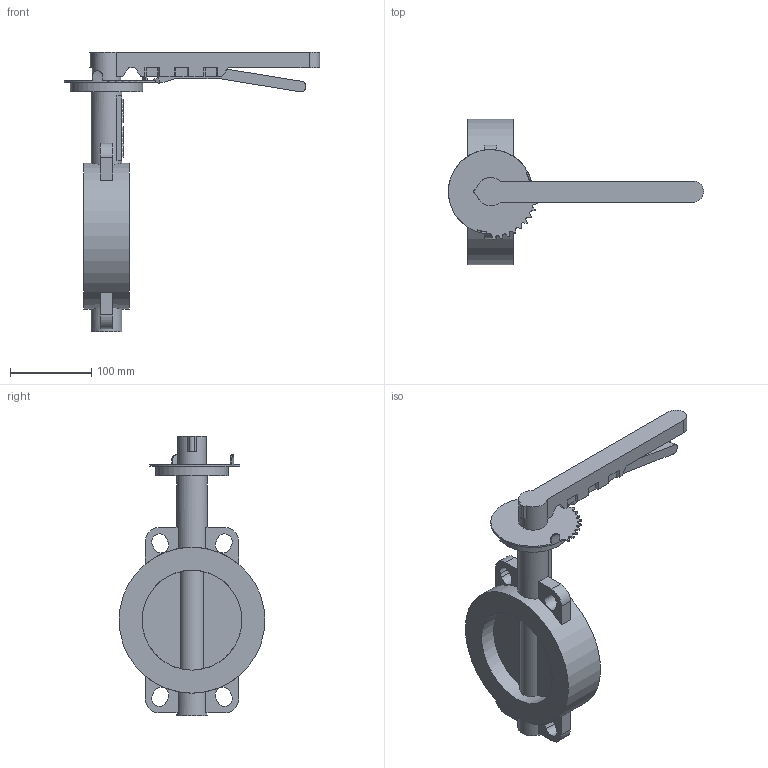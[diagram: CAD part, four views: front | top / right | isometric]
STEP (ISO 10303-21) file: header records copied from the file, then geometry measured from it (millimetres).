
FILE_DESCRIPTION(('STEP AP203'), '1');
FILE_NAME('Çàòâîð 017W.ZS DN125 PN10_16 ðóêîÿòêà', '', ('UNSPECIFIED'), ('UNSPECIFIED'), 'ASCON STEP Converter 1.6', 'ASCON Math Kernel', '');
FILE_SCHEMA(('CONFIG_CONTROL_DESIGN'));
Length unit declared in the file: millimetre
Bounding box: 315 x 180 x 345 mm (x, y, z)
Volume: 222768.4 mm3; surface area: 199370.3 mm2
Topology: 1 solids, 4 shells, 759 faces, 2244 edges, 1449 vertices
Faces by surface type: cylinder 496, plane 263
Full cylindrical faces by diameter (mm): 10 x4, 18.9 x1, 35 x1, 38 x2, 55 x1, 90 x1, 123.3 x2, 180 x1
Entity records: 32502 total; most frequent: CARTESIAN_POINT 5206, DIRECTION 4772, ORIENTED_EDGE 4401, EDGE_CURVE 2232, AXIS2_PLACEMENT_3D 1809, VERTEX_POINT 1449, LINE 1154, VECTOR 1154
